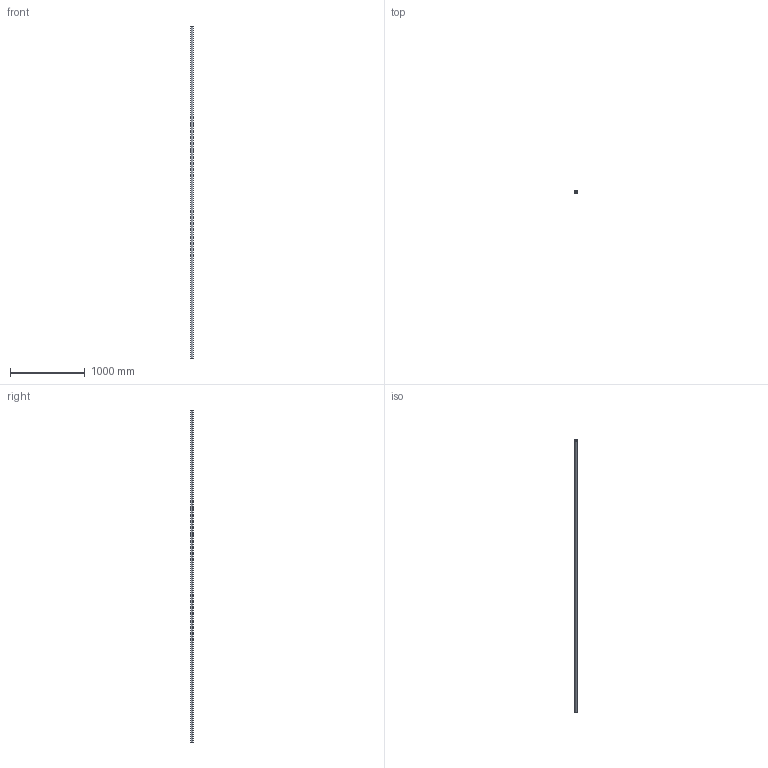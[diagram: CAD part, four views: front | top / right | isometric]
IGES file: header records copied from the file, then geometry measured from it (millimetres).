
Start section: SolidWorks IGES file using analytic representation for surfaces
Global section: file name: C:\Users\IanO\Desktop\L1771_v2\L1771.40_v2\L1771.40_v2_20230705_IGES\L1771.40-4450.igs; native system: SolidWorks 2019; preprocessor: SolidWorks 2019; author: IanO; date: 230705.162525; units: millimetre
Bounding box: 40 x 40 x 4450 mm (x, y, z)
Surface area: 951927.7 mm2 (no closed solid volume)
Topology: 0 solids, 0 shells, 6 faces, 272 edges, 272 vertices
Faces by surface type: revolution 4, bspline 2
